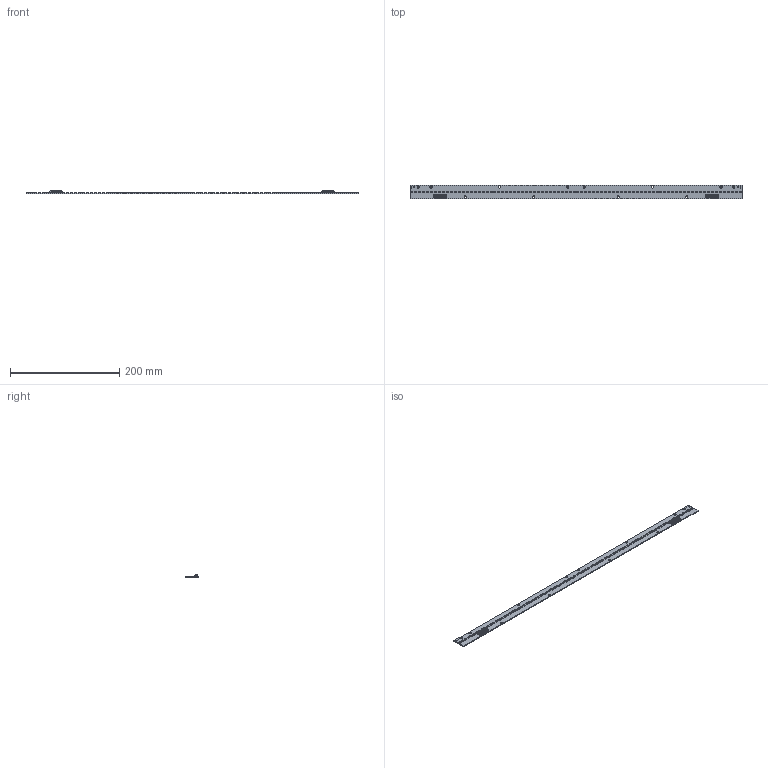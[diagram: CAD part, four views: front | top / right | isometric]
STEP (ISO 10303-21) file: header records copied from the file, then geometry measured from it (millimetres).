
FILE_DESCRIPTION (( 'STEP AP203' ), '1' );
FILE_NAME ('24.700.033.02 A PCBA 24 INCH TOP CONNECTOR.STEP', '2017-11-13T21:17:03', ( '' ), ( '' ), 'SwSTEP 2.0', 'SolidWorks 2017', '' );
FILE_SCHEMA (( 'CONFIG_CONTROL_DESIGN' ));
Length unit declared in the file: millimetre
Products named in the file (6): 22.700.033.01 1 PCBA 2 FOOT LUMENETIX; lumileds 3535L; 462.038 16 PIN CONNECTOR 8-188275-6; TEST PADS; DIRECTION ARROW; 24.700.033.02 A PCBA 24 INCH TOP CONNECTOR
Assembly tree (90 placements, depth 2):
  24.700.033.02 A PCBA 24 INCH TOP CONNECTOR
    22.700.033.01 1 PCBA 2 FOOT LUMENETIX
    lumileds 3535L  x84
    462.038 16 PIN CONNECTOR 8-188275-6  x2
    TEST PADS
    DIRECTION ARROW  x2
Bounding box: 607.02 x 24 x 6.95 mm (x, y, z)
Volume: 24899.4 mm3; surface area: 38439 mm2
Topology: 361 solids, 361 shells, 3752 faces, 9086 edges, 6056 vertices
Faces by surface type: plane 3192, cylinder 560
Entity records: 34495 total; most frequent: CARTESIAN_POINT 5621, ORIENTED_EDGE 5474, DIRECTION 5277, EDGE_CURVE 2737, VECTOR 2317, LINE 2317, VERTEX_POINT 1824, AXIS2_PLACEMENT_3D 1480
